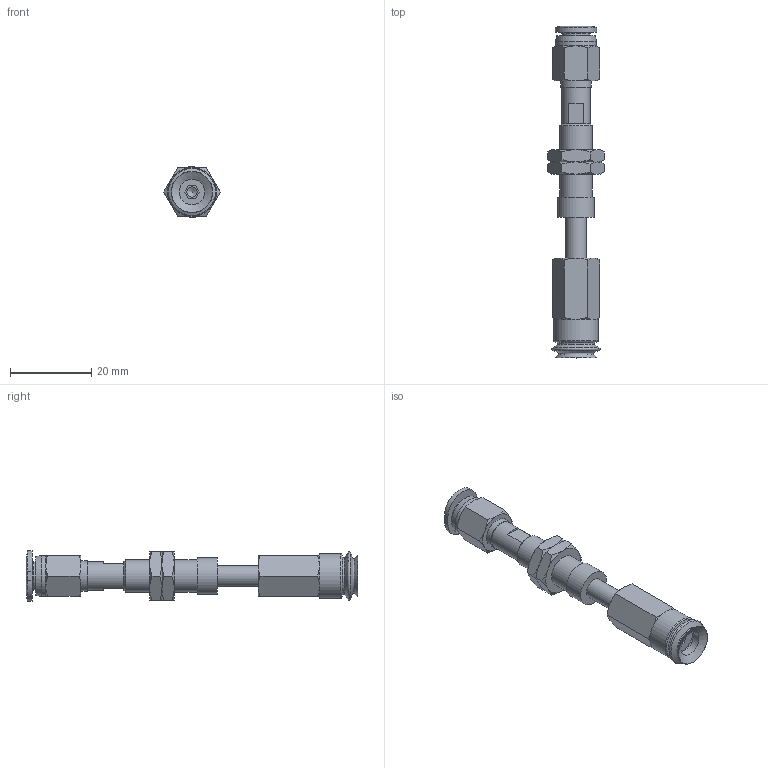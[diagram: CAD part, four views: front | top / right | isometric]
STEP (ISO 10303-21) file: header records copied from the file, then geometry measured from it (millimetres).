
FILE_DESCRIPTION(('STEP AP203'),'1');
FILE_NAME('-O.stp','2025-08-27T07:26:42',(' '),(' '),'Spatial InterOp 3D',' ',' ');
FILE_SCHEMA(('CONFIG_CONTROL_DESIGN'));
Length unit declared in the file: millimetre
Products named in the file (8): BNABPJTS-10-10-※-O; ADAPTER; NAPCTS-10-10-MBODY; Adapter-10-NAPJ; NUT-NAPJ-10-10-s; NAPJTS-10-10-FBODY; BPJG-10-※; PC-C_06-M5
Assembly tree (8 placements, depth 2):
  BNABPJTS-10-10-※-O
    ADAPTER
    NAPCTS-10-10-MBODY
    Adapter-10-NAPJ
    NUT-NAPJ-10-10-s  x2
    NAPJTS-10-10-FBODY
    BPJG-10-※
    PC-C_06-M5
Bounding box: 13.86 x 81.48 x 12.4 mm (x, y, z)
Volume: 4035.6 mm3; surface area: 5544.3 mm2
Topology: 7 solids, 10 shells, 173 faces, 355 edges, 213 vertices
Faces by surface type: cone 67, plane 65, cylinder 25, torus 9, bspline 4, revolution 3
Full cylindrical faces by diameter (mm): 2.5 x1, 4 x2, 4.134 x2, 4.6 x1, 5 x4, 6.266 x1, 7 x2, 7.188 x2, 7.4 x1, 7.8 x1, 8 x2, 8.2 x1, 9 x1, 10 x1, 11 x1
Entity records: 4620 total; most frequent: CARTESIAN_POINT 1423, DIRECTION 587, ORIENTED_EDGE 490, AXIS2_PLACEMENT_3D 264, EDGE_CURVE 247, EDGE_LOOP 222, VERTEX_POINT 176, FACE_OUTER_BOUND 121
